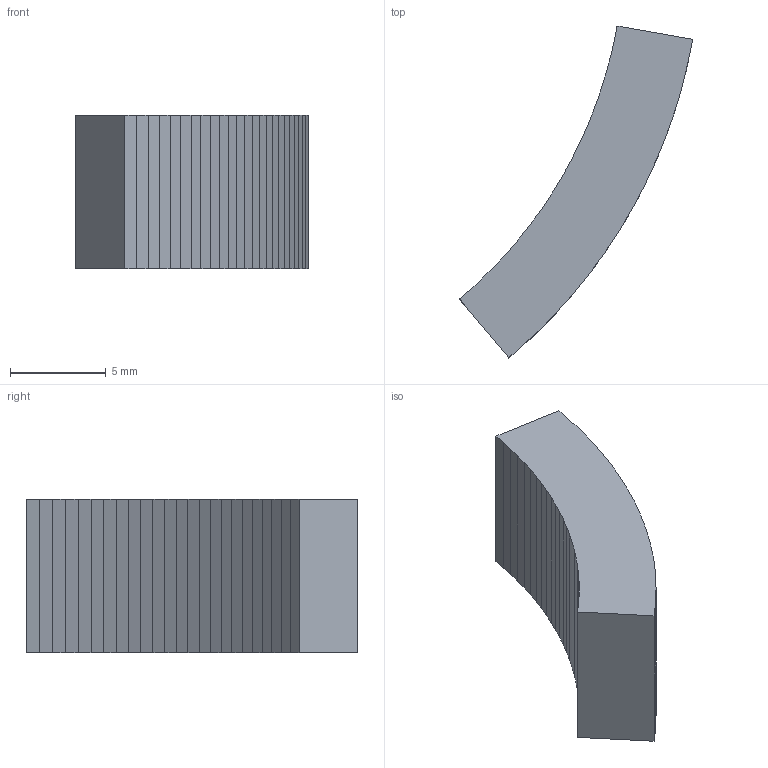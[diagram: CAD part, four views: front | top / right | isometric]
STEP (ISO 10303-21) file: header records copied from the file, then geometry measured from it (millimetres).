
FILE_DESCRIPTION(('Open CASCADE Model'),'2;1');
FILE_NAME('Open CASCADE Shape Model','2026-10-04T01:02:30',('Author'),( 'Open CASCADE'),'Open CASCADE STEP processor 8.0','Open CASCADE 8.0' ,'Unknown');
FILE_SCHEMA(('AUTOMOTIVE_DESIGN { 1 0 10303 214 1 1 1 1 }'));
Length unit declared in the file: millimetre
Products named in the file (1): Open CASCADE STEP translator 8.0 194
Bounding box: 12.15 x 17.28 x 8 mm (x, y, z)
Volume: 580.8 mm3; surface area: 499.6 mm2
Topology: 1 solids, 1 shells, 52 faces, 150 edges, 100 vertices
Faces by surface type: plane 52
Entity records: 3634 total; most frequent: CARTESIAN_POINT 603, DIRECTION 556, LINE 450, VECTOR 450, ORIENTED_EDGE 300, PCURVE 300, DEFINITIONAL_REPRESENTATION 300, EDGE_CURVE 150
